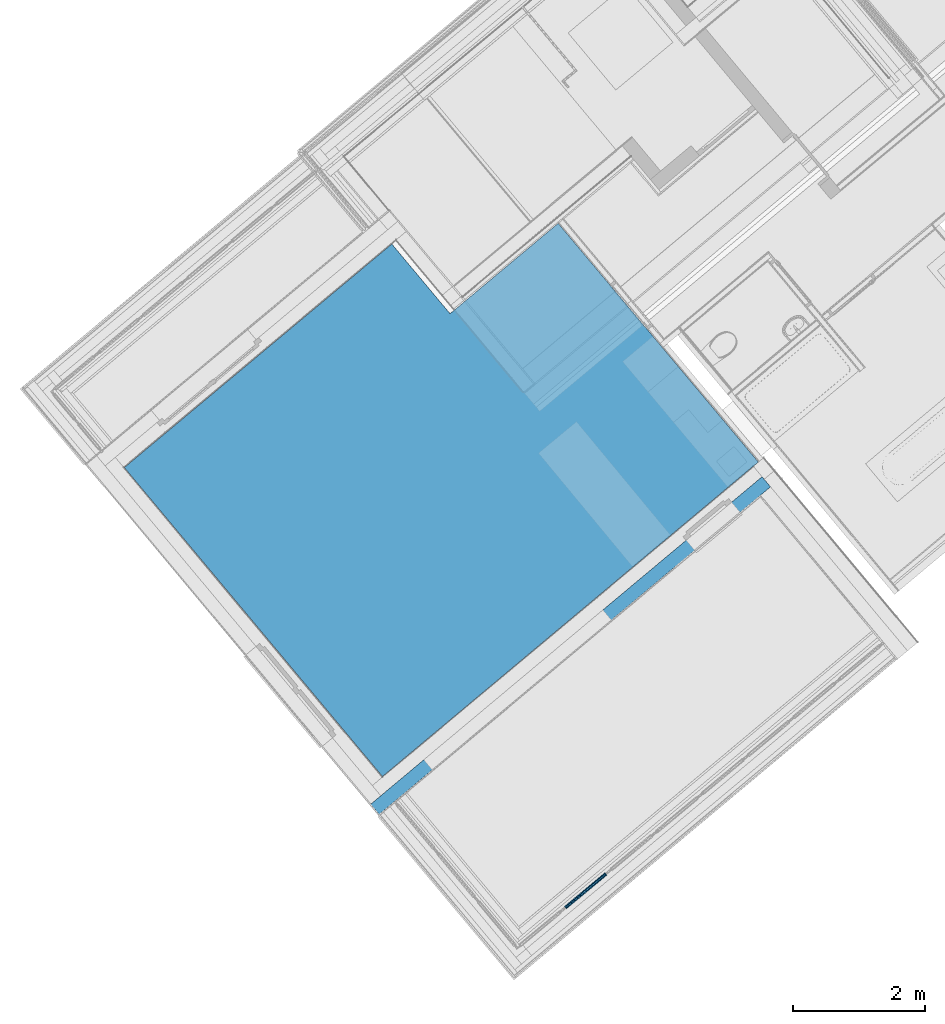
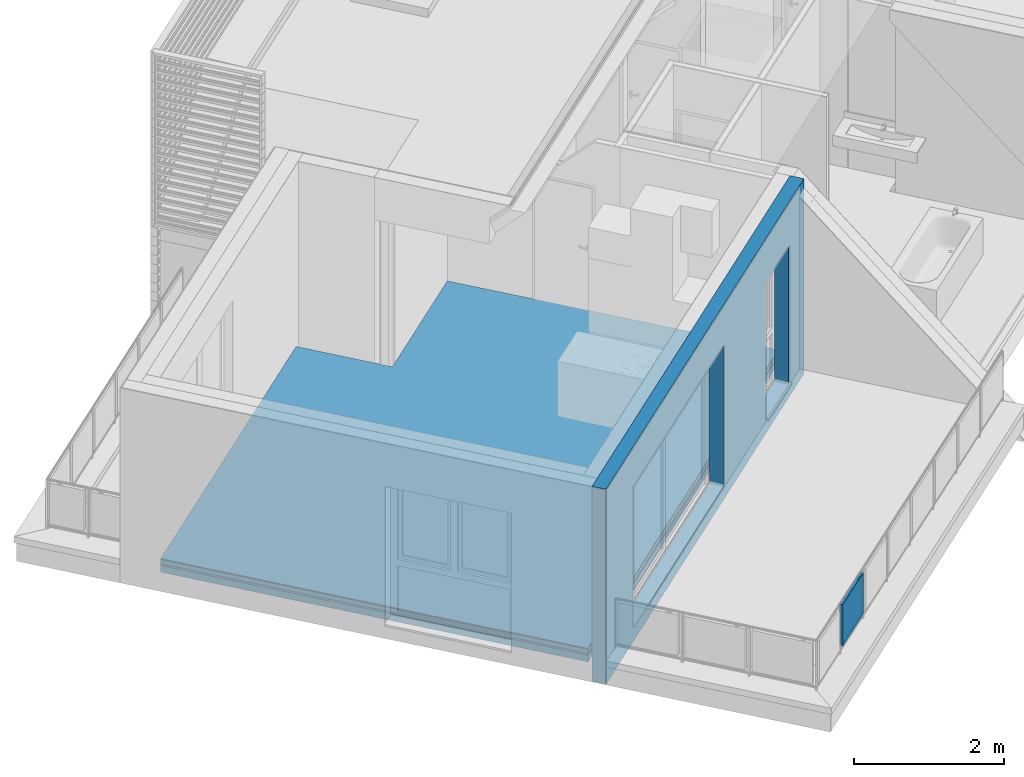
# One storey, part 13 of 50: 7 building element parts, 2 openings, 3 elements without a shape of their own.
"""IFC4 building model written with IfcOpenShell, lengths in metres."""

from ifc_helpers import new_model, entity, si_unit, converted_unit, derived_unit, direction, frame, origin_with_axes, place, context, subcontext, project, spatial, polygons, material, type_object, element, aggregate, save


model = new_model("IFC4")

# Units and contexts
model_context = context("Model", 3, precision=1e-05, world=origin_with_axes(), true_north=direction((0.0, 1.0)))
body_context = subcontext(model_context, "Body", "Model", "MODEL_VIEW")
ifc_project = project(units=[si_unit("LENGTHUNIT", "METRE"), si_unit("AREAUNIT", "SQUARE_METRE"), si_unit("VOLUMEUNIT", "CUBIC_METRE"), converted_unit("PLANEANGLEUNIT", "DEGREE", entity("IfcPlaneAngleMeasure", 0.0174532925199), si_unit("PLANEANGLEUNIT", "RADIAN"), dimensions=[0, 0, 0, 0, 0, 0, 0]), converted_unit("TIMEUNIT", "Year", entity("IfcTimeMeasure", 31556926.0), si_unit("TIMEUNIT", "SECOND"), dimensions=[0, 0, 1, 0, 0, 0, 0]), si_unit("MASSUNIT", "GRAM", prefix="KILO"), si_unit("THERMODYNAMICTEMPERATUREUNIT", "DEGREE_CELSIUS"), si_unit("LUMINOUSINTENSITYUNIT", "LUMEN"), si_unit("ENERGYUNIT", "JOULE", prefix="MEGA"), derived_unit("THERMALCONDUCTANCEUNIT", [(si_unit("POWERUNIT", "WATT"), 1), (si_unit("LENGTHUNIT", "METRE"), -1), (si_unit("THERMODYNAMICTEMPERATUREUNIT", "KELVIN"), -1)]), derived_unit("SPECIFICHEATCAPACITYUNIT", [(si_unit("ENERGYUNIT", "JOULE"), 1), (si_unit("MASSUNIT", "GRAM", prefix="KILO"), -1), (si_unit("THERMODYNAMICTEMPERATUREUNIT", "KELVIN"), -1)]), derived_unit("MASSDENSITYUNIT", [(si_unit("MASSUNIT", "GRAM", prefix="KILO"), 1), (si_unit("VOLUMEUNIT", "CUBIC_METRE"), -1)])], contexts=[model_context])

# Site, building, storey
site_placement = place(None, frame((-0.00153261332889, -0.00661245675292, 0.0), z_axis=(0.0, 0.0, 1.0), x_axis=(1.0, 0.0, 0.0)))
site = spatial("IfcSite", under=ifc_project, at=site_placement, Name="Gelände", CompositionType="ELEMENT")
building_placement = place(site_placement, origin_with_axes())
building = spatial("IfcBuilding", under=site, at=building_placement, Name="Gebäude", CompositionType="ELEMENT")
storey_placement = place(building_placement, frame((0.0, 0.0, 8.66), z_axis=(0.0, 0.0, 1.0), x_axis=(1.0, 0.0, 0.0)))
storey = spatial("IfcBuildingStorey", under=building, at=storey_placement, Name="DG2", CompositionType="ELEMENT", Elevation=8.66)

# Covering, building element parts
covering_type = type_object("IfcCoveringType", Name="DE 01 Decke Wohnung/Wohnung Parkett 220", PredefinedType="NOTDEFINED")
covering_placement = place(storey_placement, frame((-3.24610937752, 13.1666672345, 0.22), z_axis=(0.0, 0.0, 1.0), x_axis=(1.0, 0.0, 0.0)))
covering = element("IfcCovering", 1, at=covering_placement, inside=storey, type_object=covering_type, Name="Decke-008", PredefinedType="NOTDEFINED")
ifc_material_1 = material(Name="Parkett")
building_element_part_1_placement = place(covering_placement, origin_with_axes())
building_element_part_1 = element("IfcBuildingElementPart", 2, at=building_element_part_1_placement, material=ifc_material_1, Name="Parkett", PredefinedType="NOTDEFINED", context=body_context, shape_type="Tessellation", body=[
    polygons([(4.22967471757, 6.47672617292, -0.015), (4.22967471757, 6.47672617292, 0.0), (5.67740575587, 4.75031227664, 0.0), (5.67740575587, 4.75031227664, -0.015), (2.65324989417, 8.35637248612, 0.0), (2.65324989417, 8.35637248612, -0.015), (1.0194511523, 6.99133996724, 0.0), (0.140463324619, 8.04326639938, 0.0), (-3.89987576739, 4.66716634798, 0.0), (0.0, 0.0, 0.0), (0.0, 0.0, -0.015), (-3.89987576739, 4.66716634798, -0.015), (0.140463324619, 8.04326639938, -0.015), (1.0194511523, 6.99133996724, -0.015)], [[[1, 2, 3, 4]], [[5, 2, 1, 6]], [[2, 5, 7, 8, 9, 10, 3]], [[3, 10, 11, 4]], [[6, 1, 4, 11, 12, 13, 14]], [[5, 6, 14, 7]], [[8, 7, 14, 13]], [[9, 8, 13, 12]], [[10, 9, 12, 11]]], closed=True),
])
ifc_material_2 = material(Name="Estrich")
building_element_part_2_placement = place(covering_placement, origin_with_axes())
building_element_part_2 = element("IfcBuildingElementPart", 3, at=building_element_part_2_placement, material=ifc_material_2, Name="Estrich", PredefinedType="NOTDEFINED", context=body_context, shape_type="Tessellation", body=[
    polygons([(4.22967471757, 6.47672617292, -0.08), (4.22967471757, 6.47672617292, -0.015), (5.67740575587, 4.75031227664, -0.015), (5.67740575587, 4.75031227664, -0.08), (2.65324989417, 8.35637248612, -0.015), (2.65324989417, 8.35637248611, -0.08), (1.0194511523, 6.99133996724, -0.015), (0.140463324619, 8.04326639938, -0.015), (-3.89987576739, 4.66716634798, -0.015), (0.0, 0.0, -0.015), (0.0, 0.0, -0.08), (-3.89987576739, 4.66716634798, -0.08), (0.140463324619, 8.04326639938, -0.08), (1.0194511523, 6.99133996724, -0.08)], [[[1, 2, 3, 4]], [[5, 2, 1, 6]], [[2, 5, 7, 8, 9, 10, 3]], [[3, 10, 11, 4]], [[6, 1, 4, 11, 12, 13, 14]], [[5, 6, 14, 7]], [[8, 7, 14, 13]], [[9, 8, 13, 12]], [[10, 9, 12, 11]]], closed=True),
])
ifc_material_3 = material(Name="Trittschalldämmung")
building_element_part_3_placement = place(covering_placement, origin_with_axes())
building_element_part_3 = element("IfcBuildingElementPart", 4, at=building_element_part_3_placement, material=ifc_material_3, Name="Trittschalldämmung", PredefinedType="NOTDEFINED", context=body_context, shape_type="Tessellation", body=[
    polygons([(4.22967471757, 6.47672617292, -0.11), (4.22967471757, 6.47672617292, -0.08), (5.67740575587, 4.75031227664, -0.08), (5.67740575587, 4.75031227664, -0.11), (2.65324989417, 8.35637248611, -0.08), (2.65324989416, 8.35637248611, -0.11), (1.0194511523, 6.99133996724, -0.08), (0.140463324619, 8.04326639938, -0.08), (-3.89987576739, 4.66716634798, -0.08), (0.0, 0.0, -0.08), (0.0, 0.0, -0.11), (-3.89987576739, 4.66716634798, -0.11), (0.140463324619, 8.04326639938, -0.11), (1.0194511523, 6.99133996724, -0.11)], [[[1, 2, 3, 4]], [[5, 2, 1, 6]], [[2, 5, 7, 8, 9, 10, 3]], [[3, 10, 11, 4]], [[6, 1, 4, 11, 12, 13, 14]], [[5, 6, 14, 7]], [[8, 7, 14, 13]], [[9, 8, 13, 12]], [[10, 9, 12, 11]]], closed=True),
])
ifc_material_4 = material(Name="Schüttung")
building_element_part_4_placement = place(covering_placement, origin_with_axes())
building_element_part_4 = element("IfcBuildingElementPart", 5, at=building_element_part_4_placement, material=ifc_material_4, Name="Schüttung", PredefinedType="NOTDEFINED", context=body_context, shape_type="Tessellation", body=[
    polygons([(4.22967471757, 6.47672617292, -0.22), (4.22967471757, 6.47672617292, -0.11), (5.67740575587, 4.75031227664, -0.11), (5.67740575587, 4.75031227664, -0.22), (2.65324989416, 8.35637248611, -0.11), (2.65324989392, 8.35637248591, -0.22), (1.0194511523, 6.99133996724, -0.11), (0.140463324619, 8.04326639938, -0.11), (-3.89987576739, 4.66716634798, -0.11), (0.0, 0.0, -0.11), (0.0, 0.0, -0.22), (-3.89987576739, 4.66716634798, -0.22), (0.140463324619, 8.04326639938, -0.22), (1.0194511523, 6.99133996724, -0.22)], [[[1, 2, 3, 4]], [[5, 2, 1, 6]], [[2, 5, 7, 8, 9, 10, 3]], [[4, 3, 10, 11]], [[6, 1, 4, 11, 12, 13, 14]], [[5, 6, 14, 7]], [[13, 8, 7, 14]], [[12, 9, 8, 13]], [[11, 10, 9, 12]]], closed=True),
])
aggregate(covering, [building_element_part_1, building_element_part_2, building_element_part_3, building_element_part_4])

# Space
space_placement = place(storey_placement, frame((2.45868563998, 17.3922711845, 0.22), z_axis=(0.0, 0.0, 1.0), x_axis=(-0.766948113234, -0.641709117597, 0.0)))
space = spatial("IfcSpace", under=storey, at=space_placement, CompositionType="ELEMENT", PredefinedType="NOTDEFINED")

# Wall, openings, building element part
wall_type = type_object("IfcWallType", Name="AW EG 420", PredefinedType="NOTDEFINED")
wall_placement = place(space_placement, frame((-0.215036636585, 0.0, -0.22), z_axis=(0.0, 0.0, 1.0), x_axis=(1.0, 0.0, 0.0)))
wall = element("IfcWall", 6, at=wall_placement, inside=space, type_object=wall_type, Name="Wand-002", PredefinedType="NOTDEFINED")
opening_1_placement = place(wall_placement, frame((1.04736689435, 0.0, 0.22), z_axis=(0.0, 0.0, 1.0), x_axis=(1.0, 0.0, 0.0)))
element("IfcOpeningElement", 7, at=opening_1_placement, cuts=wall, Name="Fenster-001", context=body_context, identifier="Reference", shape_type="Tessellation", body=[
    polygons([(-0.45, -0.215, 0.0), (-0.45, -0.215, 2.26), (-0.45, 3.80153969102, 2.26), (-0.45, 3.80153969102, 0.0), (-0.45, -4.22153969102, 0.0), (-0.45, -4.22153969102, 2.26), (0.45, -0.215, 2.26), (0.45, 3.80153969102, 2.26), (0.45, -4.22153969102, 2.26), (0.45, 3.80153969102, 0.0), (0.45, -0.215, 0.0), (0.45, -4.22153969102, 0.0)], [[[1, 2, 3, 4]], [[2, 1, 5, 6]], [[7, 8, 3, 2, 6, 9]], [[8, 10, 4, 3]], [[1, 4, 10, 11, 12, 5]], [[6, 5, 12, 9]], [[7, 11, 10, 8]], [[11, 7, 9, 12]]], closed=True),
])
opening_2_placement = place(wall_placement, frame((4.89771327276, 0.0, 0.22), z_axis=(0.0, 0.0, 1.0), x_axis=(1.0, 0.0, 0.0)))
element("IfcOpeningElement", 8, at=opening_2_placement, cuts=wall, Name="Tür-001", context=body_context, identifier="Reference", shape_type="Tessellation", body=[
    polygons([(-1.76598893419, -0.215, 0.0), (-1.76598893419, -0.215, 2.31), (-1.76598893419, 3.80153969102, 2.31), (-1.76598893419, 3.80153969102, 0.0), (1.81598893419, -0.215, -0.22), (-1.81598893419, -0.215, -0.22), (-1.81598893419, -0.215, 2.36), (1.81598893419, -0.215, 2.36), (1.76598893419, -0.215, 2.31), (1.76598893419, -0.215, 0.0), (1.76598893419, 3.80153969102, 2.31), (1.76598893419, 3.80153969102, 0.0), (1.81598893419, -4.22153969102, -0.22), (-1.81598893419, -4.22153969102, -0.22), (-1.81598893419, -4.22153969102, 2.36), (1.81598893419, -4.22153969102, 2.36)], [[[1, 2, 3, 4]], [[5, 6, 7, 8], [9, 2, 1, 10]], [[2, 9, 11, 3]], [[11, 12, 4, 3]], [[10, 1, 4, 12]], [[6, 5, 13, 14]], [[7, 6, 14, 15]], [[8, 7, 15, 16]], [[5, 8, 16, 13]], [[9, 10, 12, 11]], [[15, 14, 13, 16]]], closed=True),
])
ifc_material_5 = material(Name="EPS 1")
building_element_part_5_placement = place(wall_placement, origin_with_axes())
building_element_part_5 = element("IfcBuildingElementPart", 9, at=building_element_part_5_placement, material=ifc_material_5, Name="EPS 1", PredefinedType="NOTDEFINED", context=body_context, shape_type="Tessellation", body=[
    polygons([(0.0, -0.215, 3.18), (0.0, -0.215, 0.0), (7.70706058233, -0.215, 0.0), (7.70706058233, -0.215, 3.18), (0.597366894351, -0.215, 0.22), (0.597366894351, -0.215, 2.48), (1.49736689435, -0.215, 2.48), (1.49736689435, -0.215, 0.22), (6.66370220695, -0.215, 0.22), (3.13172433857, -0.215, 0.22), (3.13172433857, -0.215, 2.53), (6.66370220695, -0.215, 2.53), (0.0, -0.0567421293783, 3.18), (0.0, -0.0567421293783, 0.0), (2.69186749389e-05, -0.015, 0.0), (7.7071908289, -0.015, 0.0), (7.7071908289, -0.015, 3.18), (2.69186749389e-05, -0.015, 3.18), (0.597366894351, -0.015, 2.48), (0.597366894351, -0.015, 0.22), (1.49736689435, -0.015, 2.48), (1.49736689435, -0.015, 0.22), (6.66370220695, -0.015, 0.22), (3.13172433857, -0.015, 0.22), (3.13172433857, -0.015, 2.53), (6.66370220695, -0.015, 2.53)], [[[1, 2, 3, 4], [5, 6, 7, 8], [9, 10, 11, 12]], [[13, 14, 2, 1]], [[15, 16, 3, 2, 14]], [[3, 16, 17, 4]], [[1, 4, 17, 18, 13]], [[19, 6, 5, 20]], [[21, 7, 6, 19]], [[22, 8, 7, 21]], [[20, 5, 8, 22]], [[23, 24, 10, 9]], [[24, 25, 11, 10]], [[25, 26, 12, 11]], [[26, 23, 9, 12]], [[18, 15, 14, 13]], [[15, 18, 17, 16], [21, 19, 20, 22], [23, 26, 25, 24]]], closed=True),
])
aggregate(wall, [building_element_part_5])

# Railing, building element parts
railing_type = type_object("IfcRailingType", Name="Geländerart", PredefinedType="NOTDEFINED")
railing_placement = place(space_placement, frame((7.13717596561, 0.00077071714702, 0.16), z_axis=(0.0, 0.0, 1.0), x_axis=(-0.766948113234, 0.641709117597, 0.0)))
railing = element("IfcRailing", 10, at=railing_placement, inside=space, type_object=railing_type, Name="Geländer - 001", PredefinedType="NOTDEFINED")
ifc_material_6 = material(Name="Profilit")
building_element_part_6_placement = place(railing_placement, origin_with_axes())
building_element_part_6 = element("IfcBuildingElementPart", 11, at=building_element_part_6_placement, material=ifc_material_6, Name="Profilit", PredefinedType="NOTDEFINED", context=body_context, shape_type="Tessellation", body=[
    polygons([(3.12500467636, -1.115739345, 0.135), (2.53466859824, -1.60738991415, 0.135), (2.53466859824, -1.60738991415, 0.775), (3.12500467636, -1.115739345, 0.775), (2.54746773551, -1.62275813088, 0.135), (3.13780381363, -1.13110756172, 0.135), (2.54746773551, -1.62275813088, 0.775), (3.13780381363, -1.13110756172, 0.775)], [[[1, 2, 3, 4]], [[5, 2, 1, 6]], [[7, 3, 2, 5]], [[4, 3, 7, 8]], [[1, 4, 8, 6]], [[7, 5, 6, 8]]], closed=True),
])
ifc_material_7 = material(Name="Aluminium")
building_element_part_7_placement = place(railing_placement, origin_with_axes())
building_element_part_7 = element("IfcBuildingElementPart", 12, at=building_element_part_7_placement, material=ifc_material_7, Name="Aluminium", PredefinedType="NOTDEFINED", context=body_context, shape_type="Tessellation", body=[
    polygons([(2.60478319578, -1.55875666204, 0.12), (2.65857195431, -1.5139596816, 0.12), (2.65857195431, -1.5139596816, 0.095), (2.60478319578, -1.55875666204, 0.095), (2.6079829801, -1.56259871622, 0.12), (2.66177173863, -1.51780173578, 0.12), (2.66177173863, -1.51780173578, 0.095), (2.6079829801, -1.56259871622, 0.095)], [[[1, 2, 3, 4]], [[5, 6, 2, 1]], [[2, 6, 7, 3]], [[4, 3, 7, 8]], [[1, 4, 8, 5]], [[8, 7, 6, 5]]], closed=True),
    polygons([(3.06448943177, -1.17589875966, 0.79), (3.01070067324, -1.22069574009, 0.79), (3.01070067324, -1.22069574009, 0.795), (3.06448943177, -1.17589875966, 0.795), (3.06768921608, -1.17974081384, 0.79), (3.01390045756, -1.22453779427, 0.79), (3.01390045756, -1.22453779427, 0.795), (3.06768921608, -1.17974081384, 0.795)], [[[1, 2, 3, 4]], [[5, 6, 2, 1]], [[2, 6, 7, 3]], [[4, 3, 7, 8]], [[1, 4, 8, 5]], [[8, 7, 6, 5]]], closed=True),
    polygons([(2.54554092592, -1.64388364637, 0.12), (2.51354308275, -1.60546310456, 0.12), (3.12693148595, -1.09461382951, 0.12), (3.15892932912, -1.13303437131, 0.12), (2.56090914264, -1.6310845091, 0.14), (2.55130978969, -1.61955834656, 0.14), (2.54746773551, -1.62275813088, 0.135), (2.53466859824, -1.60738991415, 0.135), (2.53851065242, -1.60419012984, 0.14), (2.52891129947, -1.5926639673, 0.14), (3.11156326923, -1.10741296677, 0.14), (3.11156326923, -1.10741296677, 0.77), (2.52891129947, -1.5926639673, 0.77), (2.52891129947, -1.5926639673, 0.14), (2.51354308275, -1.60546310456, 0.12), (2.51354308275, -1.60546310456, 0.79), (3.12693148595, -1.09461382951, 0.79), (3.15892932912, -1.13303437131, 0.79), (2.54554092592, -1.64388364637, 0.79), (2.54554092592, -1.64388364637, 0.12), (2.56090914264, -1.6310845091, 0.14), (2.56090914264, -1.6310845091, 0.77), (3.1435611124, -1.14583350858, 0.77), (3.1435611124, -1.14583350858, 0.14), (3.13396175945, -1.13430734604, 0.14), (3.13396175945, -1.13430734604, 0.77), (2.55130978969, -1.61955834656, 0.77), (2.55130978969, -1.61955834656, 0.14), (2.54746773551, -1.62275813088, 0.135), (2.54746773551, -1.62275813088, 0.775), (3.13780381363, -1.13110756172, 0.775), (3.13780381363, -1.13110756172, 0.135), (3.12500467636, -1.115739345, 0.135), (3.12500467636, -1.115739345, 0.775), (2.53466859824, -1.60738991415, 0.775), (2.53466859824, -1.60738991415, 0.135), (2.53851065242, -1.60419012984, 0.14), (2.53851065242, -1.60419012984, 0.77), (3.12116262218, -1.11893912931, 0.77), (3.12116262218, -1.11893912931, 0.14)], [[[1, 2, 3, 4]], [[1, 5, 6, 7, 8, 9, 10, 2]], [[2, 10, 11, 12, 13, 14, 15, 16, 17, 3]], [[4, 3, 17, 18]], [[5, 1, 4, 18, 19, 20, 21, 22, 23, 24]], [[6, 5, 24, 25]], [[7, 6, 25, 26, 27, 28, 29, 30, 31, 32]], [[8, 7, 32, 33]], [[9, 8, 33, 34, 35, 36, 37, 38, 39, 40]], [[10, 9, 40, 11]], [[11, 40, 39, 12]], [[12, 39, 38, 13]], [[13, 38, 37, 14]], [[20, 15, 14, 37, 36, 29, 28, 21]], [[19, 16, 15, 20]], [[18, 17, 16, 19]], [[27, 22, 21, 28]], [[26, 23, 22, 27]], [[25, 24, 23, 26]], [[35, 30, 29, 36]], [[34, 31, 30, 35]], [[33, 32, 31, 34]]], closed=True),
])
aggregate(railing, [building_element_part_6, building_element_part_7])

save(model, "model.ifc")
